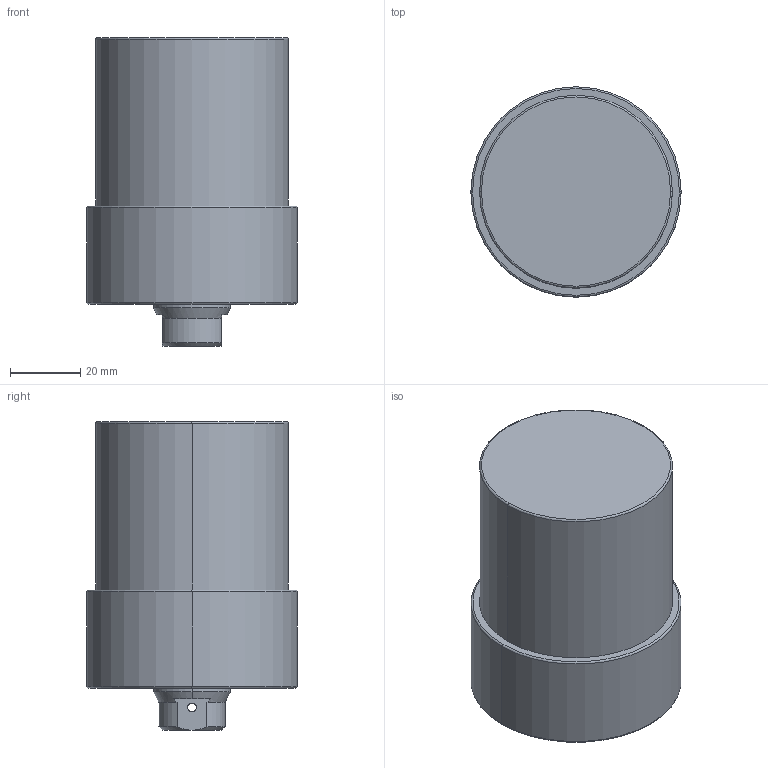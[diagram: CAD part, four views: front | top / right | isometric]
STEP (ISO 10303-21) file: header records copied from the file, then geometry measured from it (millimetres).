
FILE_DESCRIPTION (( 'STEP AP203' ), '1' );
FILE_NAME ('CLLU055-CB-035.STEP', '2017-05-12T11:21:27', ( '' ), ( '' ), 'SwSTEP 2.0', 'SolidWorks 2015', '' );
FILE_SCHEMA (( 'CONFIG_CONTROL_DESIGN' ));
Length unit declared in the file: millimetre
Products named in the file (1): CLLU055-CB-035
Bounding box: 60 x 60 x 88 mm (x, y, z)
Volume: 193498.6 mm3; surface area: 21664.9 mm2
Topology: 1 solids, 1 shells, 66 faces, 152 edges, 85 vertices
Faces by surface type: cylinder 26, cone 24, plane 10, torus 6
Entity records: 1971 total; most frequent: CARTESIAN_POINT 414, DIRECTION 340, ORIENTED_EDGE 284, AXIS2_PLACEMENT_3D 143, EDGE_CURVE 142, VERTEX_POINT 85, EDGE_LOOP 77, CIRCLE 76
